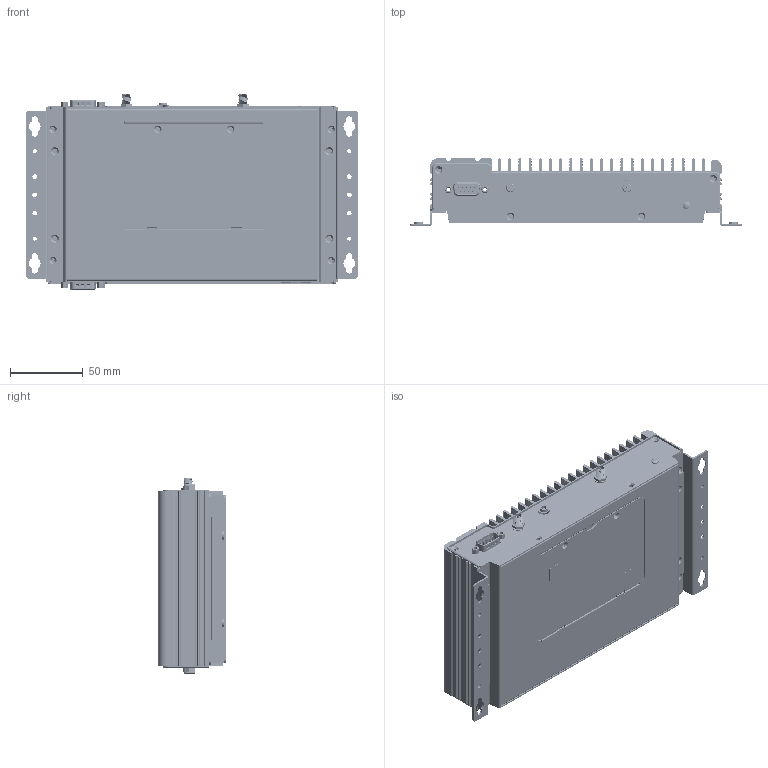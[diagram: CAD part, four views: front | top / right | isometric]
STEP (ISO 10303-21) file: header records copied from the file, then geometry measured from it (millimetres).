
FILE_DESCRIPTION (( 'STEP AP214' ), '1' );
FILE_NAME ('CM-NB200-D.STEP', '2025-07-09T02:39:50', ( '' ), ( '' ), 'SwSTEP 2.0', 'SolidWorks 2024', '' );
FILE_SCHEMA (( 'AUTOMOTIVE_DESIGN' ));
Length unit declared in the file: millimetre
Products named in the file (1): CM-NB200-D
Bounding box: 227.81 x 46 x 134 mm (x, y, z)
Surface area: 250657.2 mm2 (no closed solid volume)
Topology: 0 solids, 111 shells, 16186 faces, 44189 edges, 28237 vertices
Faces by surface type: plane 10602, cylinder 3746, cone 1152, bspline 551, sphere 73, torus 62
Entity records: 822434 total; most frequent: CARTESIAN_POINT 255326, ORIENTED_EDGE 87630, DIRECTION 70125, EDGE_CURVE 44070, VERTEX_POINT 28216, VECTOR 25873, LINE 25873, AXIS2_PLACEMENT_3D 22126
